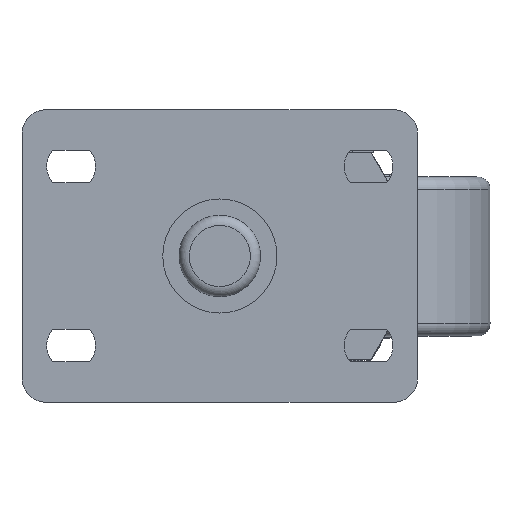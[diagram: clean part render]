
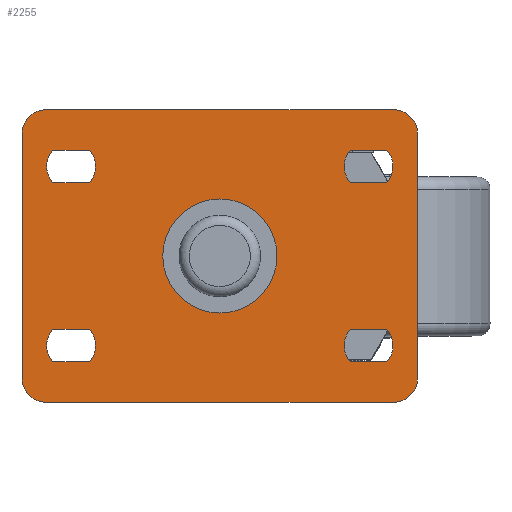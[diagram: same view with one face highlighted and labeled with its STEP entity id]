
A CAD part, top view. The second image highlights one B-rep face of the part: STEP entity #2255.
In plain terms, the highlighted planar face has unit normal (0, 0, 1).
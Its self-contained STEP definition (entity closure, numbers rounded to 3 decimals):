
#151=FACE_BOUND('',#463,.T.);
#152=FACE_BOUND('',#464,.T.);
#153=FACE_BOUND('',#465,.T.);
#154=FACE_BOUND('',#466,.T.);
#155=FACE_BOUND('',#467,.T.);
#230=PLANE('',#2443);
#303=FACE_OUTER_BOUND('',#462,.T.);
#462=EDGE_LOOP('',(#1682,#1683,#1684,#1685,#1686,#1687,#1688,#1689));
#463=EDGE_LOOP('',(#1690));
#464=EDGE_LOOP('',(#1691,#1692,#1693,#1694));
#465=EDGE_LOOP('',(#1695,#1696,#1697,#1698));
#466=EDGE_LOOP('',(#1699,#1700,#1701,#1702));
#467=EDGE_LOOP('',(#1703,#1704,#1705,#1706));
#659=LINE('',#3454,#775);
#673=LINE('',#3509,#789);
#679=LINE('',#3530,#795);
#682=LINE('',#3537,#798);
#685=LINE('',#3546,#801);
#688=LINE('',#3553,#804);
#691=LINE('',#3562,#807);
#694=LINE('',#3569,#810);
#697=LINE('',#3578,#813);
#700=LINE('',#3585,#816);
#701=LINE('',#3587,#817);
#702=LINE('',#3589,#818);
#775=VECTOR('',#2715,85.1);
#789=VECTOR('',#2761,85.1);
#795=VECTOR('',#2785,9.);
#798=VECTOR('',#2794,9.);
#801=VECTOR('',#2803,9.);
#804=VECTOR('',#2812,9.);
#807=VECTOR('',#2821,9.);
#810=VECTOR('',#2830,9.);
#813=VECTOR('',#2839,9.);
#816=VECTOR('',#2848,9.);
#817=VECTOR('',#2851,59.8);
#818=VECTOR('',#2854,59.8);
#887=CIRCLE('',#2392,6.);
#901=CIRCLE('',#2409,6.);
#902=CIRCLE('',#2412,6.);
#903=CIRCLE('',#2414,6.);
#904=CIRCLE('',#2416,14.);
#905=CIRCLE('',#2418,6.083);
#906=CIRCLE('',#2421,6.083);
#907=CIRCLE('',#2424,6.083);
#908=CIRCLE('',#2427,6.083);
#909=CIRCLE('',#2430,6.083);
#910=CIRCLE('',#2433,6.083);
#911=CIRCLE('',#2436,6.083);
#912=CIRCLE('',#2439,6.083);
#1036=VERTEX_POINT('',#3441);
#1037=VERTEX_POINT('',#3442);
#1041=VERTEX_POINT('',#3452);
#1064=VERTEX_POINT('',#3502);
#1065=VERTEX_POINT('',#3503);
#1066=VERTEX_POINT('',#3508);
#1067=VERTEX_POINT('',#3512);
#1068=VERTEX_POINT('',#3516);
#1069=VERTEX_POINT('',#3520);
#1070=VERTEX_POINT('',#3523);
#1071=VERTEX_POINT('',#3524);
#1072=VERTEX_POINT('',#3529);
#1073=VERTEX_POINT('',#3533);
#1074=VERTEX_POINT('',#3539);
#1075=VERTEX_POINT('',#3540);
#1076=VERTEX_POINT('',#3545);
#1077=VERTEX_POINT('',#3549);
#1078=VERTEX_POINT('',#3555);
#1079=VERTEX_POINT('',#3556);
#1080=VERTEX_POINT('',#3561);
#1081=VERTEX_POINT('',#3565);
#1082=VERTEX_POINT('',#3571);
#1083=VERTEX_POINT('',#3572);
#1084=VERTEX_POINT('',#3577);
#1085=VERTEX_POINT('',#3581);
#1255=EDGE_CURVE('',#1036,#1037,#887,.T.);
#1261=EDGE_CURVE('',#1041,#1036,#659,.T.);
#1285=EDGE_CURVE('',#1064,#1065,#901,.T.);
#1288=EDGE_CURVE('',#1065,#1066,#673,.T.);
#1290=EDGE_CURVE('',#1066,#1067,#902,.T.);
#1292=EDGE_CURVE('',#1068,#1041,#903,.T.);
#1294=EDGE_CURVE('',#1069,#1069,#904,.T.);
#1295=EDGE_CURVE('',#1070,#1071,#905,.T.);
#1298=EDGE_CURVE('',#1071,#1072,#679,.T.);
#1300=EDGE_CURVE('',#1072,#1073,#906,.T.);
#1302=EDGE_CURVE('',#1073,#1070,#682,.T.);
#1303=EDGE_CURVE('',#1074,#1075,#907,.T.);
#1306=EDGE_CURVE('',#1075,#1076,#685,.T.);
#1308=EDGE_CURVE('',#1076,#1077,#908,.T.);
#1310=EDGE_CURVE('',#1077,#1074,#688,.T.);
#1311=EDGE_CURVE('',#1078,#1079,#909,.T.);
#1314=EDGE_CURVE('',#1079,#1080,#691,.T.);
#1316=EDGE_CURVE('',#1080,#1081,#910,.T.);
#1318=EDGE_CURVE('',#1081,#1078,#694,.T.);
#1319=EDGE_CURVE('',#1082,#1083,#911,.T.);
#1322=EDGE_CURVE('',#1083,#1084,#697,.T.);
#1324=EDGE_CURVE('',#1084,#1085,#912,.T.);
#1326=EDGE_CURVE('',#1085,#1082,#700,.T.);
#1327=EDGE_CURVE('',#1067,#1068,#701,.T.);
#1328=EDGE_CURVE('',#1037,#1064,#702,.T.);
#1682=ORIENTED_EDGE('',*,*,#1255,.F.);
#1683=ORIENTED_EDGE('',*,*,#1261,.F.);
#1684=ORIENTED_EDGE('',*,*,#1292,.F.);
#1685=ORIENTED_EDGE('',*,*,#1327,.F.);
#1686=ORIENTED_EDGE('',*,*,#1290,.F.);
#1687=ORIENTED_EDGE('',*,*,#1288,.F.);
#1688=ORIENTED_EDGE('',*,*,#1285,.F.);
#1689=ORIENTED_EDGE('',*,*,#1328,.F.);
#1690=ORIENTED_EDGE('',*,*,#1294,.T.);
#1691=ORIENTED_EDGE('',*,*,#1295,.T.);
#1692=ORIENTED_EDGE('',*,*,#1298,.T.);
#1693=ORIENTED_EDGE('',*,*,#1300,.T.);
#1694=ORIENTED_EDGE('',*,*,#1302,.T.);
#1695=ORIENTED_EDGE('',*,*,#1303,.T.);
#1696=ORIENTED_EDGE('',*,*,#1306,.T.);
#1697=ORIENTED_EDGE('',*,*,#1308,.T.);
#1698=ORIENTED_EDGE('',*,*,#1310,.T.);
#1699=ORIENTED_EDGE('',*,*,#1311,.T.);
#1700=ORIENTED_EDGE('',*,*,#1314,.T.);
#1701=ORIENTED_EDGE('',*,*,#1316,.T.);
#1702=ORIENTED_EDGE('',*,*,#1318,.T.);
#1703=ORIENTED_EDGE('',*,*,#1319,.T.);
#1704=ORIENTED_EDGE('',*,*,#1322,.T.);
#1705=ORIENTED_EDGE('',*,*,#1324,.T.);
#1706=ORIENTED_EDGE('',*,*,#1326,.T.);
#2255=ADVANCED_FACE('',(#303,#151,#152,#153,#154,#155),#230,.T.);
#2392=AXIS2_PLACEMENT_3D('',#3443,#2705,#2706);
#2409=AXIS2_PLACEMENT_3D('',#3504,#2755,#2756);
#2412=AXIS2_PLACEMENT_3D('',#3513,#2765,#2766);
#2414=AXIS2_PLACEMENT_3D('',#3517,#2770,#2771);
#2416=AXIS2_PLACEMENT_3D('',#3521,#2775,#2776);
#2418=AXIS2_PLACEMENT_3D('',#3525,#2779,#2780);
#2421=AXIS2_PLACEMENT_3D('',#3534,#2789,#2790);
#2424=AXIS2_PLACEMENT_3D('',#3541,#2797,#2798);
#2427=AXIS2_PLACEMENT_3D('',#3550,#2807,#2808);
#2430=AXIS2_PLACEMENT_3D('',#3557,#2815,#2816);
#2433=AXIS2_PLACEMENT_3D('',#3566,#2825,#2826);
#2436=AXIS2_PLACEMENT_3D('',#3573,#2833,#2834);
#2439=AXIS2_PLACEMENT_3D('',#3582,#2843,#2844);
#2443=AXIS2_PLACEMENT_3D('',#3590,#2855,#2856);
#2705=DIRECTION('center_axis',(0.,0.,-1.));
#2706=DIRECTION('ref_axis',(-0.707,-0.707,0.));
#2715=DIRECTION('',(-1.,0.,0.));
#2755=DIRECTION('center_axis',(0.,0.,-1.));
#2756=DIRECTION('ref_axis',(-0.707,0.707,0.));
#2761=DIRECTION('',(1.,0.,0.));
#2765=DIRECTION('center_axis',(0.,0.,-1.));
#2766=DIRECTION('ref_axis',(0.707,0.707,0.));
#2770=DIRECTION('center_axis',(0.,0.,-1.));
#2771=DIRECTION('ref_axis',(0.707,-0.707,0.));
#2775=DIRECTION('center_axis',(0.,0.,-1.));
#2776=DIRECTION('ref_axis',(-1.,0.,0.));
#2779=DIRECTION('center_axis',(0.,0.,-1.));
#2780=DIRECTION('ref_axis',(-0.753,0.658,0.));
#2785=DIRECTION('',(1.,0.,0.));
#2789=DIRECTION('center_axis',(0.,0.,-1.));
#2790=DIRECTION('ref_axis',(0.753,-0.658,0.));
#2794=DIRECTION('',(-1.,0.,0.));
#2797=DIRECTION('center_axis',(0.,0.,-1.));
#2798=DIRECTION('ref_axis',(-0.753,0.658,0.));
#2803=DIRECTION('',(1.,0.,0.));
#2807=DIRECTION('center_axis',(0.,0.,-1.));
#2808=DIRECTION('ref_axis',(0.753,-0.658,0.));
#2812=DIRECTION('',(-1.,0.,0.));
#2815=DIRECTION('center_axis',(0.,0.,-1.));
#2816=DIRECTION('ref_axis',(0.753,-0.658,0.));
#2821=DIRECTION('',(-1.,0.,0.));
#2825=DIRECTION('center_axis',(0.,0.,-1.));
#2826=DIRECTION('ref_axis',(-0.753,0.658,0.));
#2830=DIRECTION('',(1.,0.,0.));
#2833=DIRECTION('center_axis',(0.,0.,-1.));
#2834=DIRECTION('ref_axis',(-0.753,0.658,0.));
#2839=DIRECTION('',(-1.,0.,0.));
#2843=DIRECTION('center_axis',(0.,0.,-1.));
#2844=DIRECTION('ref_axis',(0.753,-0.658,0.));
#2848=DIRECTION('',(1.,0.,0.));
#2851=DIRECTION('',(0.,-1.,0.));
#2854=DIRECTION('',(0.,1.,0.));
#2855=DIRECTION('center_axis',(0.,0.,1.));
#2856=DIRECTION('ref_axis',(1.,0.,0.));
#3441=CARTESIAN_POINT('',(-12.,-19.,4.));
#3442=CARTESIAN_POINT('',(-18.,-13.,4.));
#3443=CARTESIAN_POINT('Origin',(-12.,-13.,4.));
#3452=CARTESIAN_POINT('',(73.1,-19.,4.));
#3454=CARTESIAN_POINT('',(79.1,-19.,4.));
#3502=CARTESIAN_POINT('',(-18.,46.8,4.));
#3503=CARTESIAN_POINT('',(-12.,52.8,4.));
#3504=CARTESIAN_POINT('Origin',(-12.,46.8,4.));
#3508=CARTESIAN_POINT('',(73.1,52.8,4.));
#3509=CARTESIAN_POINT('',(-18.,52.8,4.));
#3512=CARTESIAN_POINT('',(79.1,46.8,4.));
#3513=CARTESIAN_POINT('Origin',(73.1,46.8,4.));
#3516=CARTESIAN_POINT('',(79.1,-13.,4.));
#3517=CARTESIAN_POINT('Origin',(73.1,-13.,4.));
#3520=CARTESIAN_POINT('',(44.55,16.9,4.));
#3521=CARTESIAN_POINT('Origin',(30.55,16.9,4.));
#3523=CARTESIAN_POINT('',(-10.45,-9.1,4.));
#3524=CARTESIAN_POINT('',(-10.45,-1.1,4.));
#3525=CARTESIAN_POINT('Origin',(-5.867,-5.1,4.));
#3529=CARTESIAN_POINT('',(-1.45,-1.1,4.));
#3530=CARTESIAN_POINT('',(10.05,-1.1,4.));
#3533=CARTESIAN_POINT('',(-1.45,-9.1,4.));
#3534=CARTESIAN_POINT('Origin',(-6.033,-5.1,4.));
#3537=CARTESIAN_POINT('',(14.55,-9.1,4.));
#3539=CARTESIAN_POINT('',(62.55,-9.1,4.));
#3540=CARTESIAN_POINT('',(62.55,-1.1,4.));
#3541=CARTESIAN_POINT('Origin',(67.133,-5.1,4.));
#3545=CARTESIAN_POINT('',(71.55,-1.1,4.));
#3546=CARTESIAN_POINT('',(46.55,-1.1,4.));
#3549=CARTESIAN_POINT('',(71.55,-9.1,4.));
#3550=CARTESIAN_POINT('Origin',(66.967,-5.1,4.));
#3553=CARTESIAN_POINT('',(51.05,-9.1,4.));
#3555=CARTESIAN_POINT('',(71.55,42.9,4.));
#3556=CARTESIAN_POINT('',(71.55,34.9,4.));
#3557=CARTESIAN_POINT('Origin',(66.967,38.9,4.));
#3561=CARTESIAN_POINT('',(62.55,34.9,4.));
#3562=CARTESIAN_POINT('',(51.05,34.9,4.));
#3565=CARTESIAN_POINT('',(62.55,42.9,4.));
#3566=CARTESIAN_POINT('Origin',(67.133,38.9,4.));
#3569=CARTESIAN_POINT('',(46.55,42.9,4.));
#3571=CARTESIAN_POINT('',(-1.45,42.9,4.));
#3572=CARTESIAN_POINT('',(-1.45,34.9,4.));
#3573=CARTESIAN_POINT('Origin',(-6.033,38.9,4.));
#3577=CARTESIAN_POINT('',(-10.45,34.9,4.));
#3578=CARTESIAN_POINT('',(14.55,34.9,4.));
#3581=CARTESIAN_POINT('',(-10.45,42.9,4.));
#3582=CARTESIAN_POINT('Origin',(-5.867,38.9,4.));
#3585=CARTESIAN_POINT('',(10.05,42.9,4.));
#3587=CARTESIAN_POINT('',(79.1,52.8,4.));
#3589=CARTESIAN_POINT('',(-18.,-19.,4.));
#3590=CARTESIAN_POINT('Origin',(30.55,16.9,4.));
